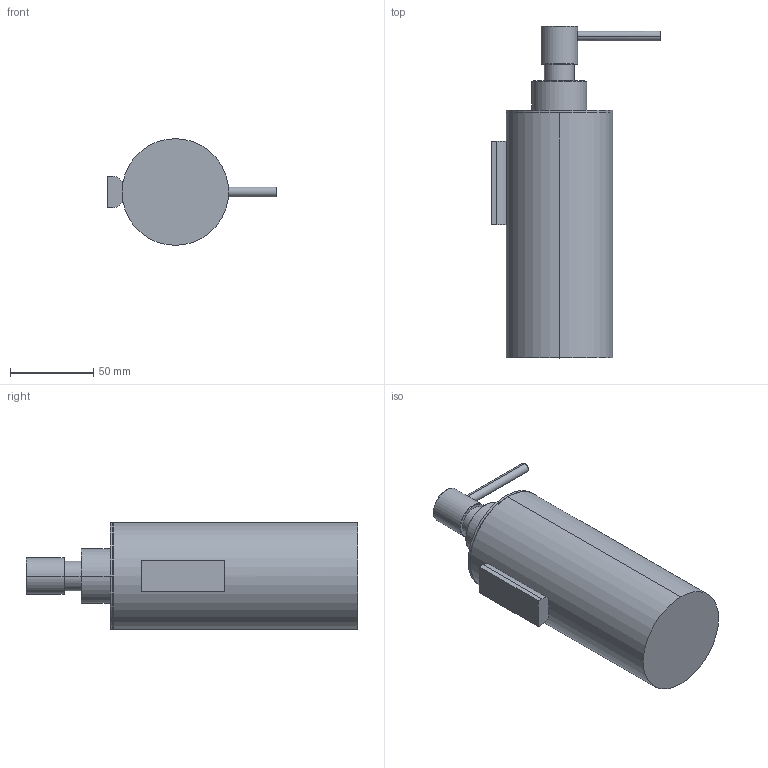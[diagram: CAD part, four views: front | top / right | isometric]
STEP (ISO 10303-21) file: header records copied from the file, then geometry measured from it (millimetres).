
FILE_DESCRIPTION((''),'2;1');
FILE_NAME('8931421_ASM','2024-04-10T16:20:33',('carloff'),(''),'CREO PARAMETRIC BY PTC INC, 2022014','CREO PARAMETRIC BY PTC INC, 2022014','');
FILE_SCHEMA(('CONFIG_CONTROL_DESIGN'));
Length unit declared in the file: millimetre
Products named in the file (2): A750210338; 8931421_ASM
Assembly tree (1 placements, depth 2):
  8931421_ASM
    A750210338
Bounding box: 102 x 199.2 x 64 mm (x, y, z)
Volume: 513900.4 mm3; surface area: 44526.1 mm2
Topology: 1 solids, 1 shells, 39 faces, 85 edges, 54 vertices
Faces by surface type: cylinder 16, plane 15, torus 8
Entity records: 1178 total; most frequent: CARTESIAN_POINT 217, DIRECTION 213, ORIENTED_EDGE 170, AXIS2_PLACEMENT_3D 90, EDGE_CURVE 85, VERTEX_POINT 54, CIRCLE 48, EDGE_LOOP 45
